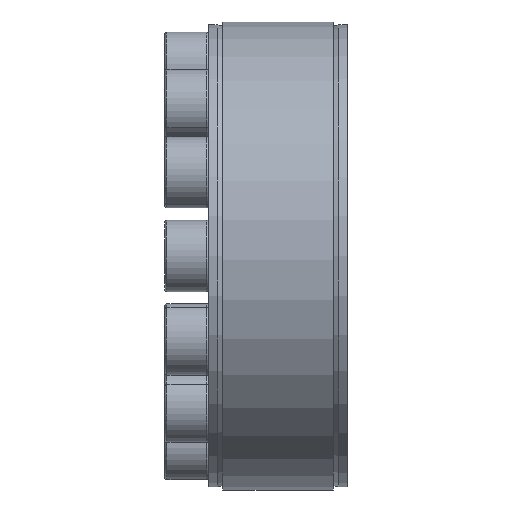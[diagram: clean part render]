
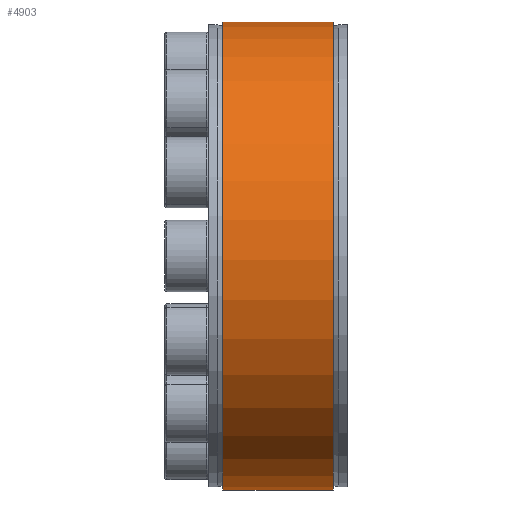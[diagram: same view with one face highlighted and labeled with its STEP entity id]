
A CAD part, front view. The second image highlights one B-rep face of the part: STEP entity #4903.
In plain terms, the highlighted cylindrical face has radius 42.5 mm (diameter 85 mm), a partial arc.
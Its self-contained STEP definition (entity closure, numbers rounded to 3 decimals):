
#153 = EDGE_CURVE ( 'NONE', #2118, #10326, #3133, .T. ) ;
#679 = DIRECTION ( 'NONE',  ( -1., 0., 0. ) ) ;
#863 = VECTOR ( 'NONE', #7055, 1000. ) ;
#1322 = ORIENTED_EDGE ( 'NONE', *, *, #5570, .F. ) ;
#1461 = AXIS2_PLACEMENT_3D ( 'NONE', #5708, #679, #6560 ) ;
#1710 = VERTEX_POINT ( 'NONE', #7293 ) ;
#1809 = DIRECTION ( 'NONE',  ( -1., 0., 0. ) ) ;
#2118 = VERTEX_POINT ( 'NONE', #10158 ) ;
#2161 = EDGE_CURVE ( 'NONE', #2908, #1710, #7242, .T. ) ;
#2654 = ORIENTED_EDGE ( 'NONE', *, *, #153, .T. ) ;
#2678 = CYLINDRICAL_SURFACE ( 'NONE', #8488, 42.5 ) ;
#2733 = DIRECTION ( 'NONE',  ( -1., 0., 0. ) ) ;
#2908 = VERTEX_POINT ( 'NONE', #10917 ) ;
#3133 = LINE ( 'NONE', #4986, #863 ) ;
#3526 = CARTESIAN_POINT ( 'NONE',  ( -13.426, -1.5, 42.474 ) ) ;
#3888 = DIRECTION ( 'NONE',  ( -1., 0., 0. ) ) ;
#4903 = ADVANCED_FACE ( 'NONE', ( #7372 ), #2678, .T. ) ;
#4986 = CARTESIAN_POINT ( 'NONE',  ( -13.426, 1.5, 42.474 ) ) ;
#5570 = EDGE_CURVE ( 'NONE', #2118, #1710, #7551, .T. ) ;
#5708 = CARTESIAN_POINT ( 'NONE',  ( -10., 0., 0. ) ) ;
#6033 = CARTESIAN_POINT ( 'NONE',  ( -13.426, 0., 0. ) ) ;
#6560 = DIRECTION ( 'NONE',  ( 0., 0., 1. ) ) ;
#7055 = DIRECTION ( 'NONE',  ( 1., 0., 0. ) ) ;
#7242 = LINE ( 'NONE', #3526, #9213 ) ;
#7293 = CARTESIAN_POINT ( 'NONE',  ( -10., -1.5, 42.474 ) ) ;
#7372 = FACE_OUTER_BOUND ( 'NONE', #7596, .T. ) ;
#7490 = ORIENTED_EDGE ( 'NONE', *, *, #2161, .T. ) ;
#7551 = CIRCLE ( 'NONE', #1461, 42.5 ) ;
#7596 = EDGE_LOOP ( 'NONE', ( #1322, #2654, #7995, #7490 ) ) ;
#7995 = ORIENTED_EDGE ( 'NONE', *, *, #10804, .T. ) ;
#8148 = CARTESIAN_POINT ( 'NONE',  ( 10., 1.5, 42.474 ) ) ;
#8488 = AXIS2_PLACEMENT_3D ( 'NONE', #6033, #2733, #9412 ) ;
#8493 = CIRCLE ( 'NONE', #10394, 42.5 ) ;
#8900 = CARTESIAN_POINT ( 'NONE',  ( 10., 0., 0. ) ) ;
#9213 = VECTOR ( 'NONE', #1809, 1000. ) ;
#9412 = DIRECTION ( 'NONE',  ( 0., 0., 1. ) ) ;
#9745 = DIRECTION ( 'NONE',  ( 0., 0., 1. ) ) ;
#10158 = CARTESIAN_POINT ( 'NONE',  ( -10., 1.5, 42.474 ) ) ;
#10326 = VERTEX_POINT ( 'NONE', #8148 ) ;
#10394 = AXIS2_PLACEMENT_3D ( 'NONE', #8900, #3888, #9745 ) ;
#10804 = EDGE_CURVE ( 'NONE', #10326, #2908, #8493, .T. ) ;
#10917 = CARTESIAN_POINT ( 'NONE',  ( 10., -1.5, 42.474 ) ) ;
